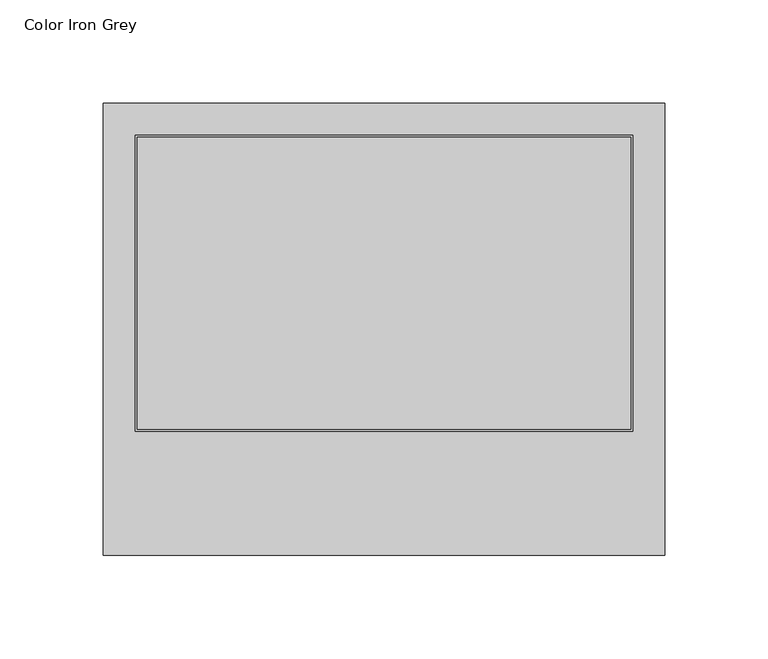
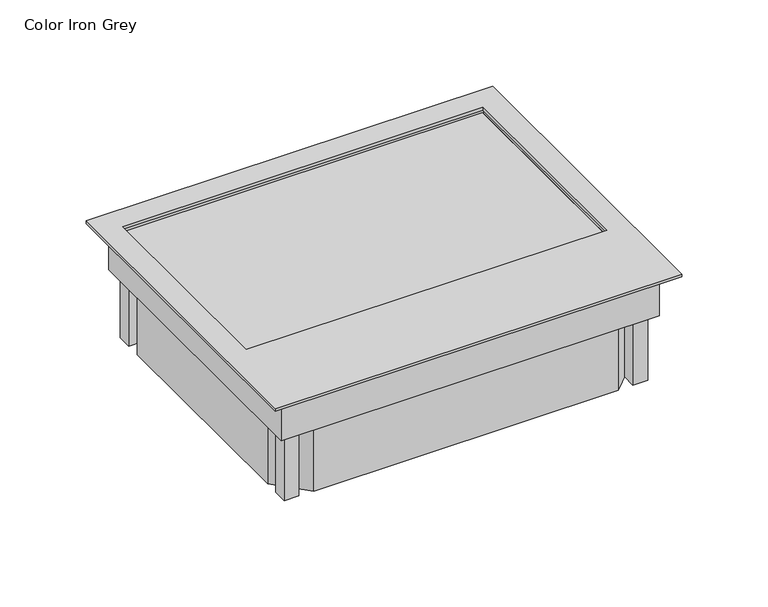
"""IFC4 building model written with IfcOpenShell, lengths in millimetres: proxy geometry, Electrical_Installation_Hager_VE-EE_Service-unit-VE09 : Color Iron Grey."""

import ifcopenshell
import ifcopenshell.guid

model = None  # the IFC model being written
_history = None  # IfcOwnerHistory: only IFC2X3 demands one
_inside = {}  # id of a spatial element -> (the spatial element, [elements in it])
_under = {}  # id of a project, library or spatial element -> (it, [spatial elements below it])
_declared = {}  # id of a project -> (the project, [libraries it declares])
_typed = {}  # id of a type object -> (the type object, [elements of that type])
_made_of = {}  # id of a material, layer set ... -> (it, [elements and type objects made of it])


def new_model(schema):
    """Start an empty IFC model of exactly this schema.

    Asked for "IFC4X3", IfcOpenShell would pick the latest addendum, in which some entities
    have other attributes; the version numbers below select the first issue.
    IFC2X3 requires an IfcOwnerHistory on every rooted entity: one is made here for all.
    """
    global model, _history
    if schema == "IFC4X3":
        model = ifcopenshell.file(schema_version=(4, 3, 0, 0))
    else:
        model = ifcopenshell.file(schema=schema)
    _inside.clear()
    _under.clear()
    _declared.clear()
    _typed.clear()
    _made_of.clear()
    _history = None
    if model.schema == "IFC2X3":
        org = make("IfcOrganization", Name="unknown")
        user = make(
            "IfcPersonAndOrganization",
            ThePerson=make("IfcPerson", FamilyName="unknown"),
            TheOrganization=org,
        )
        app = make(
            "IfcApplication",
            ApplicationDeveloper=org,
            Version="unknown",
            ApplicationFullName="unknown",
            ApplicationIdentifier="unknown",
        )
        _history = make(
            "IfcOwnerHistory",
            OwningUser=user,
            OwningApplication=app,
            ChangeAction="ADDED",
            CreationDate=0,
        )
    return model


def make(cls, **values):
    """One entity of the class cls with the attributes given. An attribute that is None is left unset."""
    return model.create_entity(
        cls, **{name: value for name, value in values.items() if value is not None}
    )


def rooted(cls, **values):
    """An entity with a GlobalId (a new one), such as an element, a storey or a relation."""
    return make(cls, GlobalId=ifcopenshell.guid.new(), OwnerHistory=_history, **values)


def si_unit(unit_type, name, prefix=None):
    """IfcSIUnit, for example si_unit("LENGTHUNIT", "METRE", prefix="MILLI")."""
    return make("IfcSIUnit", UnitType=unit_type, Prefix=prefix, Name=name)


def assignment(units):
    """IfcUnitAssignment: the units of a project."""
    return None if units is None else make("IfcUnitAssignment", Units=units)


def point(xyz):
    """IfcCartesianPoint."""
    return None if xyz is None else make("IfcCartesianPoint", Coordinates=xyz)


def direction(xyz):
    """IfcDirection."""
    return None if xyz is None else make("IfcDirection", DirectionRatios=xyz)


def frame(location, z_axis=None, x_axis=None):
    """IfcAxis2Placement3D, a coordinate frame: its origin and axes. An axis left out is left unset."""
    return make(
        "IfcAxis2Placement3D",
        Location=point(location),
        Axis=direction(z_axis),
        RefDirection=direction(x_axis),
    )


def origin():
    """The frame at (0, 0, 0) with its axes left unset."""
    return frame((0.0, 0.0, 0.0))


def place(relative_to, where):
    """IfcLocalPlacement: puts the frame where relative to a parent placement (None: the world)."""
    return make(
        "IfcLocalPlacement", PlacementRelTo=relative_to, RelativePlacement=where
    )


def context(
    kind, dimensions, precision=None, world=None, true_north=None, identifier=None
):
    """IfcGeometricRepresentationContext, for example the 3D "Model" context."""
    return make(
        "IfcGeometricRepresentationContext",
        ContextIdentifier=identifier,
        ContextType=kind,
        CoordinateSpaceDimension=dimensions,
        Precision=precision,
        WorldCoordinateSystem=world,
        TrueNorth=true_north,
    )


def project(units=None, contexts=None):
    """IfcProject with its units and contexts."""
    return rooted(
        "IfcProject",
        Name="project",
        RepresentationContexts=contexts,
        UnitsInContext=assignment(units),
    )


def spatial(cls, under=None, at=None, **own):
    """A site, building, storey or space (cls), placed at a placement, below another one or the project."""
    s = rooted(cls, ObjectPlacement=at, **own)
    if under is not None:
        _under.setdefault(under.id(), (under, []))[1].append(s)
    return s


def polyline(points):
    """IfcPolyline through the points."""
    return make("IfcPolyline", Points=[point(p) for p in points])


def outline(outer, holes=None, kind="AREA"):
    """IfcArbitraryClosedProfileDef: a profile drawn as a closed curve; with holes, ...WithVoids."""
    if holes is None:
        return make("IfcArbitraryClosedProfileDef", ProfileType=kind, OuterCurve=outer)
    return make(
        "IfcArbitraryProfileDefWithVoids",
        ProfileType=kind,
        OuterCurve=outer,
        InnerCurves=holes,
    )


def extrude(swept, where, along, depth):
    """IfcExtrudedAreaSolid: the profile swept, set in the frame where, extruded along a direction by depth."""
    return make(
        "IfcExtrudedAreaSolid",
        SweptArea=swept,
        Position=where,
        ExtrudedDirection=direction(along),
        Depth=depth,
    )


def faces_of(points, faces, orient=None, outer=None):
    """IfcFace entities. A face is a list of loops; a loop is a list of indices into points, from 0.

    orient and outer hold one flag for each loop. By default every Orientation is true, the
    first loop of a face is its IfcFaceOuterBound and the others are IfcFaceBound.
    """
    made = []
    for i, loops in enumerate(faces):
        bounds = []
        for j, loop in enumerate(loops):
            is_outer = j == 0 if outer is None else outer[i][j]
            bounds.append(
                make(
                    "IfcFaceOuterBound" if is_outer else "IfcFaceBound",
                    Bound=make("IfcPolyLoop", Polygon=[points[k] for k in loop]),
                    Orientation=True if orient is None else orient[i][j],
                )
            )
        made.append(make("IfcFace", Bounds=bounds))
    return made


def faceted_brep(points, faces, orient=None, outer=None, voids=None):
    """IfcFacetedBrep: a solid bounded by flat faces; with voids (closed shells), ...WithVoids."""
    shared = [point(p) for p in points]
    hull = make("IfcClosedShell", CfsFaces=faces_of(shared, faces, orient, outer))
    if voids is None:
        return make("IfcFacetedBrep", Outer=hull)
    return make(
        "IfcFacetedBrepWithVoids",
        Outer=hull,
        Voids=[
            make(cls, CfsFaces=faces_of(shared, fs, o, b)) for cls, fs, o, b in voids
        ],
    )


def shape(context_of_items, identifier, shape_type, items):
    """IfcShapeRepresentation: the items that make up one representation, for example the "Body"."""
    return make(
        "IfcShapeRepresentation",
        ContextOfItems=context_of_items,
        RepresentationIdentifier=identifier,
        RepresentationType=shape_type,
        Items=items,
    )


def source(mapping_origin, context_of_items, identifier, shape_type, items):
    """IfcRepresentationMap: a shape defined once, which mapped items show again and again."""
    return make(
        "IfcRepresentationMap",
        MappingOrigin=mapping_origin,
        MappedRepresentation=shape(context_of_items, identifier, shape_type, items),
    )


def transform(
    local_origin,
    x_axis=None,
    y_axis=None,
    z_axis=None,
    scale=None,
    scale2=None,
    scale3=None,
    uniform=True,
):
    """IfcCartesianTransformationOperator3D, or its non-uniform kind. x_axis, y_axis, z_axis: its Axis1, 2, 3."""
    if uniform:
        return make(
            "IfcCartesianTransformationOperator3D",
            Axis1=direction(x_axis),
            Axis2=direction(y_axis),
            LocalOrigin=point(local_origin),
            Scale=scale,
            Axis3=direction(z_axis),
        )
    return make(
        "IfcCartesianTransformationOperator3DnonUniform",
        Axis1=direction(x_axis),
        Axis2=direction(y_axis),
        LocalOrigin=point(local_origin),
        Scale=scale,
        Axis3=direction(z_axis),
        Scale2=scale2,
        Scale3=scale3,
    )


def mapped(mapping_source, mapping_target):
    """IfcMappedItem: shows the shape of a source again, moved by a transform."""
    return make(
        "IfcMappedItem", MappingSource=mapping_source, MappingTarget=mapping_target
    )


def made_of(thing, what):
    """Note that an element or type object is made of a material, layer set ...; save() writes the relation."""
    if what is not None:
        _made_of.setdefault(what.id(), (what, []))[1].append(thing)
    return thing


def element(
    cls,
    number,
    at=None,
    inside=None,
    cuts=None,
    type_object=None,
    material=None,
    context=None,
    identifier="Body",
    shape_type=None,
    held_by="IfcProductDefinitionShape",
    body=None,
    shapes=None,
    **own,
):
    """One element of the class cls, such as IfcWall. Its Tag is "e" and its number.

    at: its placement. inside: the storey or other place that contains it. cuts: it is an
    opening in that element (IfcRelVoidsElement). A single representation is given by context,
    identifier, shape_type and body (its items); several are given by shapes. held_by: the class
    of the entity that holds the representations. save() writes the other relations.
    """
    e = rooted(cls, Tag="e%d" % number, ObjectPlacement=at, **own)
    if body is not None:
        shapes = [shape(context, identifier, shape_type, body)]
    if shapes is not None:
        e.Representation = make(held_by, Representations=shapes)
    if inside is not None:
        _inside.setdefault(inside.id(), (inside, []))[1].append(e)
    if cuts is not None:
        rooted(
            "IfcRelVoidsElement", RelatingBuildingElement=cuts, RelatedOpeningElement=e
        )
    if type_object is not None:
        _typed.setdefault(type_object.id(), (type_object, []))[1].append(e)
    return made_of(e, material)


def aggregate(whole, parts):
    """IfcRelAggregates: a whole, such as a stair, and the parts it consists of."""
    return rooted("IfcRelAggregates", RelatingObject=whole, RelatedObjects=parts)


def save(model, path):
    """Write the relations noted so far, then the file.

    IfcRelAggregates (storeys below a building ...), IfcRelContainedInSpatialStructure (elements
    in a storey), IfcRelDefinesByType, IfcRelAssociatesMaterial and IfcRelDeclares: one each for
    every whole, place, type object, material and project.
    """
    for whole, parts in _under.values():
        aggregate(whole, parts)
    for where, things in _inside.values():
        rooted(
            "IfcRelContainedInSpatialStructure",
            RelatedElements=things,
            RelatingStructure=where,
        )
    for kind, things in _typed.values():
        rooted("IfcRelDefinesByType", RelatedObjects=things, RelatingType=kind)
    for what, things in _made_of.values():
        rooted("IfcRelAssociatesMaterial", RelatedObjects=things, RelatingMaterial=what)
    for by, libraries in _declared.values():
        rooted("IfcRelDeclares", RelatingContext=by, RelatedDefinitions=libraries)
    model.write(path)


def color_iron_grey_b0ae90e2(model_context):
    return source(origin(), model_context, "Body", "SolidModel", [
        faceted_brep([(126.5, 100.0, -30.0), (126.5, -100.0, -30.0), (-126.5, -100.0, -30.0), (-126.5, 100.0, -30.0), (121.5, -85.25, -30.0), (121.5, 85.25, -30.0), (121.5, 95.0, -30.0), (111.75, 95.0, -30.0), (-111.75, 95.0, -30.0), (-121.5, 95.0, -30.0), (-121.5, 85.25, -30.0), (-121.5, -85.25, -30.0), (-121.5, -95.0, -30.0), (-111.75, -95.0, -30.0), (111.75, -95.0, -30.0), (121.5, -95.0, -30.0), (-126.5, 100.0, 0.0), (126.5, 100.0, 0.0), (-126.5, -100.0, 0.0), (126.5, -100.0, 0.0), (121.5, 95.0, 0.0), (121.5, 95.0, -30.0), (121.5, -95.0, -30.0), (121.5, -95.0, -3.0), (121.5, -50.0, -3.0), (121.5, -50.0, 0.0), (-121.5, -50.0, 0.0), (-121.5, -50.0, -3.0), (-121.5, 95.0, -30.0), (-121.5, 95.0, 0.0), (-121.5, -95.0, -3.0), (-121.5, -95.0, -30.0), (136.0, 109.5, 2.0), (-136.0, 109.5, 2.0), (-136.0, -109.5, 2.0), (136.0, -109.5, 2.0), (120.5000057, 94.0, 2.0), (120.5000057, -49.3000031, 2.0), (-120.5000057, -49.3000031, 2.0), (-120.5000057, 94.0, 2.0), (120.5000057, 94.0, 0.0), (-120.5000057, 94.0, 0.0), (-120.5000057, -49.3000031, 0.0), (120.5000057, -49.3000031, 0.0), (136.0, 109.5, 0.0), (136.0, -109.5, 0.0), (-136.0, -109.5, 0.0), (-136.0, 109.5, 0.0), (-111.75, 85.25, -30.0), (111.75, 85.25, -30.0), (-111.75, -85.25, -30.0), (111.75, -85.25, -30.0), (-111.75, 95.0, -77.0), (-111.75, 85.25, -77.0), (-121.5, 85.25, -77.0), (-121.5, 95.0, -77.0), (121.5, 95.0, -77.0), (121.5, 85.25, -77.0), (111.75, 85.25, -77.0), (111.75, 95.0, -77.0), (-111.75, -95.0, -77.0), (-121.5, -95.0, -77.0), (-121.5, -85.25, -77.0), (-111.75, -85.25, -77.0), (121.5, -95.0, -77.0), (111.75, -95.0, -77.0), (111.75, -85.25, -77.0), (121.5, -85.25, -77.0)], [[[0, 1, 2, 3], [4, 5, 6, 7, 8, 9, 10, 11, 12, 13, 14, 15]], [[0, 3, 16, 17]], [[3, 2, 18, 16]], [[2, 1, 19, 18]], [[1, 0, 17, 19]], [[20, 21, 5, 4, 22, 23, 24, 25]], [[26, 25, 24, 27]], [[28, 29, 26, 27, 30, 31, 11, 10]], [[21, 20, 29, 28, 8, 7]], [[24, 23, 30, 27]], [[30, 23, 22, 14, 13, 31]], [[32, 33, 34, 35], [36, 37, 38, 39]], [[20, 25, 26, 29], [40, 41, 42, 43]], [[44, 45, 46, 47], [17, 16, 18, 19]], [[36, 39, 41, 40]], [[39, 38, 42, 41]], [[38, 37, 43, 42]], [[37, 36, 40, 43]], [[33, 32, 44, 47]], [[34, 33, 47, 46]], [[35, 34, 46, 45]], [[32, 35, 45, 44]], [[10, 48, 8, 28]], [[7, 49, 5, 21]], [[13, 50, 11, 31]], [[4, 51, 14, 22]], [[52, 53, 54, 55]], [[56, 57, 58, 59]], [[60, 61, 62, 63]], [[64, 65, 66, 67]], [[52, 55, 9, 8]], [[55, 54, 10, 9]], [[48, 10, 54, 53]], [[8, 48, 53, 52]], [[56, 59, 7, 6]], [[49, 7, 59, 58]], [[5, 49, 58, 57]], [[57, 56, 6, 5]], [[50, 13, 60, 63]], [[11, 50, 63, 62]], [[62, 61, 12, 11]], [[61, 60, 13, 12]], [[64, 67, 4, 15]], [[51, 4, 67, 66]], [[14, 51, 66, 65]], [[65, 64, 15, 14]]]),
        extrude(outline(polyline([(-119.5, 93.0), (119.5, 93.0), (119.5, -48.3), (-119.5, -48.3), (-119.5, 93.0)])), frame((0.0, 0.0, -3.0), z_axis=(0.0, 0.0, 1.0), x_axis=(1.0, 0.0, 0.0)), (0.0, 0.0, 1.0), 2.0),
        extrude(outline(polyline([(-121.5, -75.5), (-121.5, 75.5), (-102.0, 95.0), (102.0, 95.0), (121.5, 75.5), (121.5, -75.5), (102.0, -95.0), (-102.0, -95.0), (-121.5, -75.5)]), holes=[polyline([(-116.5, -73.4289322), (-99.9289322, -90.0), (99.9289322, -90.0), (116.5, -73.4289322), (116.5, 73.4289322), (99.9289322, 90.0), (-99.9289322, 90.0), (-116.5, 73.4289322), (-116.5, -73.4289322)])]), frame((0.0, 0.0, -77.0), z_axis=(0.0, 0.0, 1.0), x_axis=(1.0, 0.0, 0.0)), (0.0, 0.0, 1.0), 47.0),
        extrude(outline(polyline([(-121.5, -95.0), (-121.5, 95.0), (121.5, 95.0), (121.5, -95.0), (-121.5, -95.0)])), frame((0.0, 0.0, -8.0), z_axis=(0.0, 0.0, 1.0), x_axis=(1.0, 0.0, 0.0)), (0.0, 0.0, 1.0), 5.0),
    ])


if __name__ == "__main__":
    model = new_model("IFC4")
    model_context = context("Model", 3, world=origin())
    ifc_project = project(units=[si_unit("LENGTHUNIT", "METRE", prefix="MILLI")], contexts=[model_context])
    site = spatial("IfcSite", under=ifc_project)
    building = spatial("IfcBuilding", under=site)
    placement = place(None, origin())
    color_iron_grey_shape = color_iron_grey_b0ae90e2(model_context)
    element("IfcBuildingElementProxy", 1, Name="Electrical_Installation_Hager_VE-EE_Service-unit-VE09 : Color Iron Grey", ObjectType="Electrical_Installation_Hager_VE-EE_Service-unit-VE09 : Color Iron Grey", at=placement, inside=building, context=model_context, shape_type="MappedRepresentation", body=[
        mapped(color_iron_grey_shape, transform((0.0, 0.0, 0.0), x_axis=(1.0, 0.0, 0.0), y_axis=(0.0, 1.0, 0.0), z_axis=(0.0, 0.0, 1.0))),
    ])
    save(model, "model.ifc")
